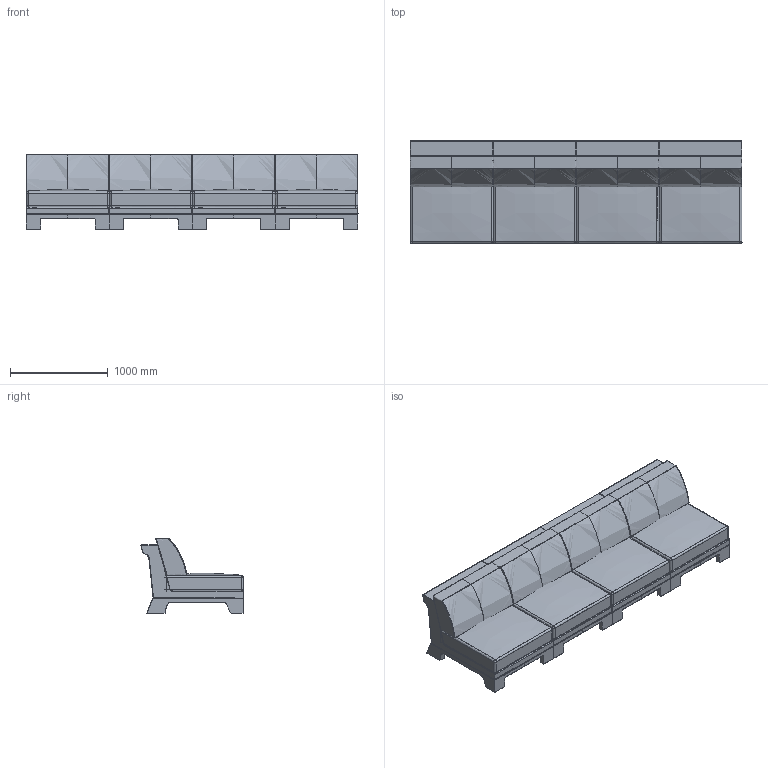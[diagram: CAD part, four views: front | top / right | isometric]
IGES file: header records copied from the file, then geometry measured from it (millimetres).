
Global section: file name: C:\Users\market02\Desktop\RYAN\PATT\FPATTCOM003_COMPOSITION 3_PATT\exportation\FPATTCOM002_COMPOSITION 3_PATT.igs; native system: Rhinoceros ( Dec 14 2021 ); preprocessor: Trout Lake IGES 012 Dec 14 2021; date: 220131.094748; units: millimetre
Bounding box: 3403.1 x 1050.67 x 768.06 mm (x, y, z)
Surface area: 31295448.2 mm2 (no closed solid volume)
Topology: 0 solids, 0 shells, 668 faces, 7180 edges, 7172 vertices
Faces by surface type: bspline 668
